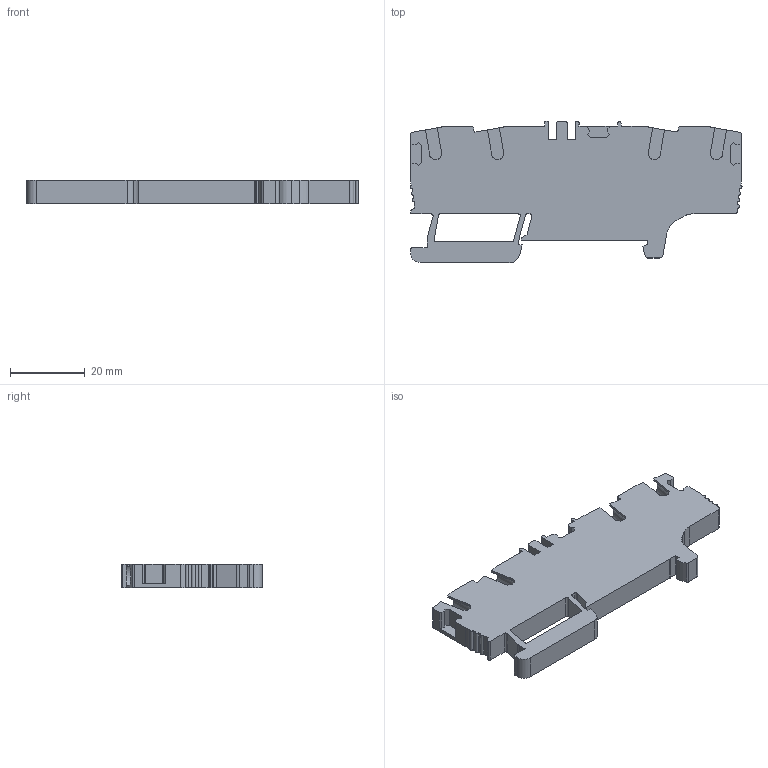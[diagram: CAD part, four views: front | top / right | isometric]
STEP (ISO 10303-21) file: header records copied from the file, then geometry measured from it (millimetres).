
FILE_DESCRIPTION(('Creo Elements/Direct Modeling STEP Export'),'2;1');
FILE_NAME('EFC.4_2+2.stp','2018-11-08T10:26:28',(''),(''),'Creo Elements/Direct Modeling STEP processor for AP214 (Solid Model)','Creo Elements/Direct Modeling 20.1 10-Mar-2018 (C) Parametric Technology GmbH','');
FILE_SCHEMA(('AUTOMOTIVE_DESIGN { 1 0 10303 214 1 1 1 1 }'));
Length unit declared in the file: millimetre
Products named in the file (1): EFC.4_2+2
Bounding box: 88.76 x 37.7 x 6.2 mm (x, y, z)
Volume: 14119 mm3; surface area: 8052.7 mm2
Topology: 1 solids, 1 shells, 276 faces, 797 edges, 532 vertices
Faces by surface type: plane 197, cylinder 79
Entity records: 9283 total; most frequent: ORIENTED_EDGE 1594, CARTESIAN_POINT 1575, DIRECTION 1472, EDGE_CURVE 797, VECTOR 614, LINE 614, VERTEX_POINT 532, AXIS2_PLACEMENT_3D 429
